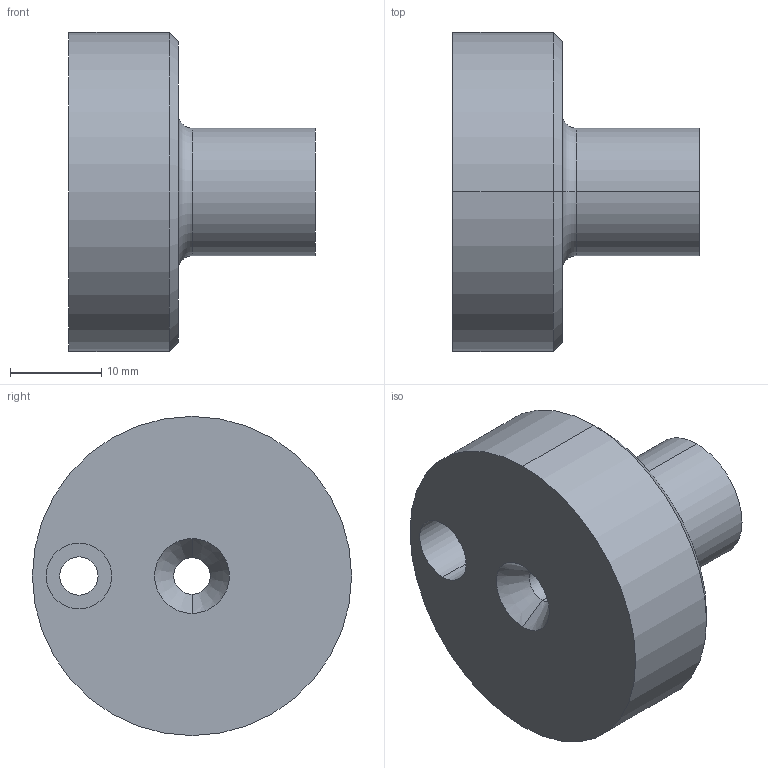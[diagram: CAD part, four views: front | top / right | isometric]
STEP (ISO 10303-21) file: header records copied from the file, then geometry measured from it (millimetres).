
FILE_DESCRIPTION (( 'STEP AP214' ), '1' );
FILE_NAME ('B1 12x27.STEP', '2019-05-22T10:36:41', ( 'August' ), ( '' ), 'SwSTEP 2.0', 'SolidWorks 2018', '' );
FILE_SCHEMA (( 'AUTOMOTIVE_DESIGN' ));
Length unit declared in the file: millimetre
Products named in the file (1): B1 12x27
Bounding box: 27 x 35 x 35 mm (x, y, z)
Volume: 12985.4 mm3; surface area: 4345.2 mm2
Topology: 1 solids, 1 shells, 20 faces, 42 edges, 26 vertices
Faces by surface type: cylinder 8, cone 6, plane 4, torus 2
Entity records: 588 total; most frequent: DIRECTION 112, CARTESIAN_POINT 89, ORIENTED_EDGE 84, AXIS2_PLACEMENT_3D 49, EDGE_CURVE 42, CIRCLE 28, VERTEX_POINT 26, EDGE_LOOP 26
